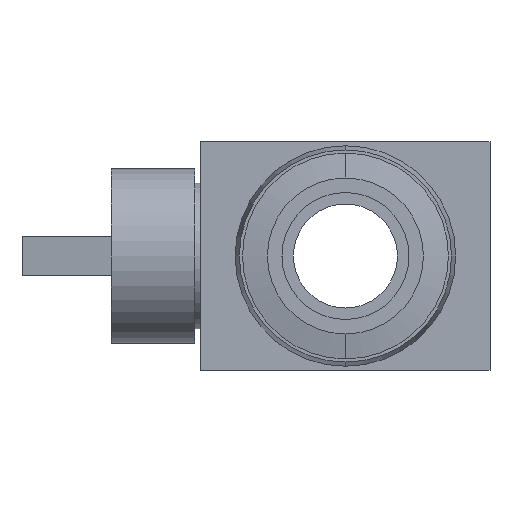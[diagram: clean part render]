
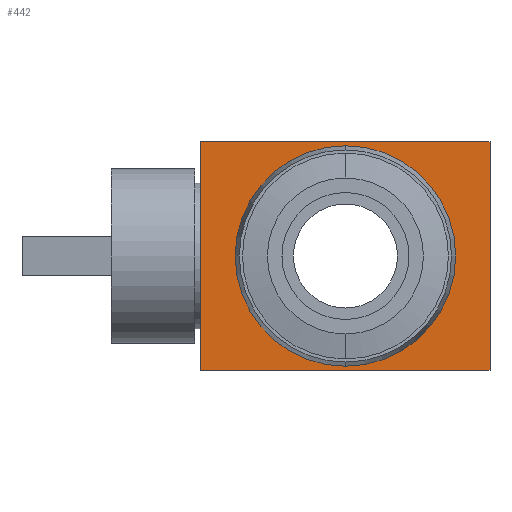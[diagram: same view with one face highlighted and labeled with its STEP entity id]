
A CAD part, left-side view. The second image highlights one B-rep face of the part: STEP entity #442.
In plain terms, the highlighted planar face has unit normal (-1, 0, 0).
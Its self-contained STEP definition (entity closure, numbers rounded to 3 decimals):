
#55 = EDGE_CURVE ( 'NONE', #440, #1731, #2356, .T. ) ;
#97 = VERTEX_POINT ( 'NONE', #1523 ) ;
#107 = DIRECTION ( 'NONE',  ( 0., 1., 0. ) ) ;
#178 = DIRECTION ( 'NONE',  ( 0., 1., 0. ) ) ;
#249 = EDGE_LOOP ( 'NONE', ( #1980, #2164 ) ) ;
#272 = CARTESIAN_POINT ( 'NONE',  ( -14.5, 0., 0. ) ) ;
#291 = VERTEX_POINT ( 'NONE', #1409 ) ;
#321 = VECTOR ( 'NONE', #1038, 1000. ) ;
#384 = FACE_BOUND ( 'NONE', #249, .T. ) ;
#440 = VERTEX_POINT ( 'NONE', #983 ) ;
#442 = ADVANCED_FACE ( 'NONE', ( #384, #646 ), #3104, .T. ) ;
#577 = VECTOR ( 'NONE', #178, 1000. ) ;
#583 = CARTESIAN_POINT ( 'NONE',  ( -14.5, 0., 0. ) ) ;
#629 = VERTEX_POINT ( 'NONE', #755 ) ;
#646 = FACE_OUTER_BOUND ( 'NONE', #3023, .T. ) ;
#657 = DIRECTION ( 'NONE',  ( 0., 0., 1. ) ) ;
#684 = EDGE_CURVE ( 'NONE', #1731, #629, #3478, .T. ) ;
#755 = CARTESIAN_POINT ( 'NONE',  ( -14.5, 13.9, -11. ) ) ;
#773 = EDGE_CURVE ( 'NONE', #291, #97, #2871, .T. ) ;
#791 = CARTESIAN_POINT ( 'NONE',  ( -14.5, 13.9, 11. ) ) ;
#955 = ORIENTED_EDGE ( 'NONE', *, *, #1727, .F. ) ;
#974 = CARTESIAN_POINT ( 'NONE',  ( -14.5, 0., 11. ) ) ;
#983 = CARTESIAN_POINT ( 'NONE',  ( -14.5, -13.9, 11. ) ) ;
#985 = CARTESIAN_POINT ( 'NONE',  ( -14.5, 13.9, 11. ) ) ;
#1038 = DIRECTION ( 'NONE',  ( 0., 0., -1. ) ) ;
#1042 = DIRECTION ( 'NONE',  ( 0., 0., 1. ) ) ;
#1064 = VECTOR ( 'NONE', #107, 1000. ) ;
#1114 = DIRECTION ( 'NONE',  ( 0., 0., -1. ) ) ;
#1196 = DIRECTION ( 'NONE',  ( 0., 0., 1. ) ) ;
#1347 = DIRECTION ( 'NONE',  ( -1., 0., 0. ) ) ;
#1402 = CIRCLE ( 'NONE', #1693, 10.6 ) ;
#1409 = CARTESIAN_POINT ( 'NONE',  ( -14.5, 0., -10.6 ) ) ;
#1445 = EDGE_CURVE ( 'NONE', #97, #291, #1402, .T. ) ;
#1469 = LINE ( 'NONE', #1538, #1064 ) ;
#1475 = DIRECTION ( 'NONE',  ( -1., 0., 0. ) ) ;
#1519 = VERTEX_POINT ( 'NONE', #2478 ) ;
#1523 = CARTESIAN_POINT ( 'NONE',  ( -14.5, 0., 10.6 ) ) ;
#1538 = CARTESIAN_POINT ( 'NONE',  ( -14.5, 0., -11. ) ) ;
#1693 = AXIS2_PLACEMENT_3D ( 'NONE', #272, #1347, #1042 ) ;
#1727 = EDGE_CURVE ( 'NONE', #1519, #629, #1469, .T. ) ;
#1731 = VERTEX_POINT ( 'NONE', #985 ) ;
#1856 = EDGE_CURVE ( 'NONE', #440, #1519, #2411, .T. ) ;
#1980 = ORIENTED_EDGE ( 'NONE', *, *, #1445, .F. ) ;
#2017 = CARTESIAN_POINT ( 'NONE',  ( -14.5, 0., 11. ) ) ;
#2079 = AXIS2_PLACEMENT_3D ( 'NONE', #583, #1475, #657 ) ;
#2164 = ORIENTED_EDGE ( 'NONE', *, *, #773, .F. ) ;
#2356 = LINE ( 'NONE', #974, #577 ) ;
#2362 = ORIENTED_EDGE ( 'NONE', *, *, #55, .T. ) ;
#2374 = CARTESIAN_POINT ( 'NONE',  ( -14.5, -13.9, 11. ) ) ;
#2411 = LINE ( 'NONE', #2374, #321 ) ;
#2421 = AXIS2_PLACEMENT_3D ( 'NONE', #2017, #2582, #1196 ) ;
#2478 = CARTESIAN_POINT ( 'NONE',  ( -14.5, -13.9, -11. ) ) ;
#2494 = ORIENTED_EDGE ( 'NONE', *, *, #1856, .F. ) ;
#2582 = DIRECTION ( 'NONE',  ( -1., 0., 0. ) ) ;
#2871 = CIRCLE ( 'NONE', #2079, 10.6 ) ;
#3023 = EDGE_LOOP ( 'NONE', ( #955, #2494, #2362, #3140 ) ) ;
#3104 = PLANE ( 'NONE',  #2421 ) ;
#3140 = ORIENTED_EDGE ( 'NONE', *, *, #684, .T. ) ;
#3424 = VECTOR ( 'NONE', #1114, 1000. ) ;
#3478 = LINE ( 'NONE', #791, #3424 ) ;
